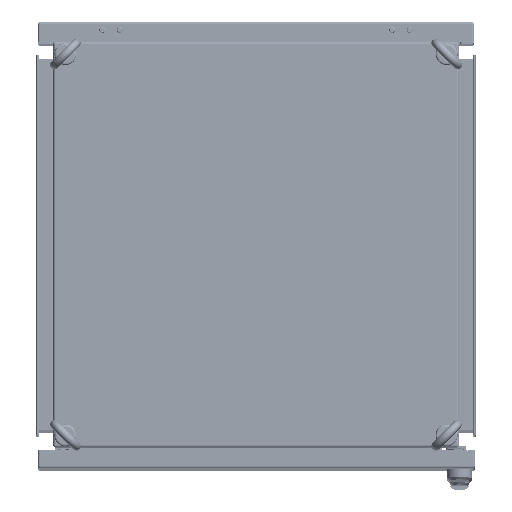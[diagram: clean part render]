
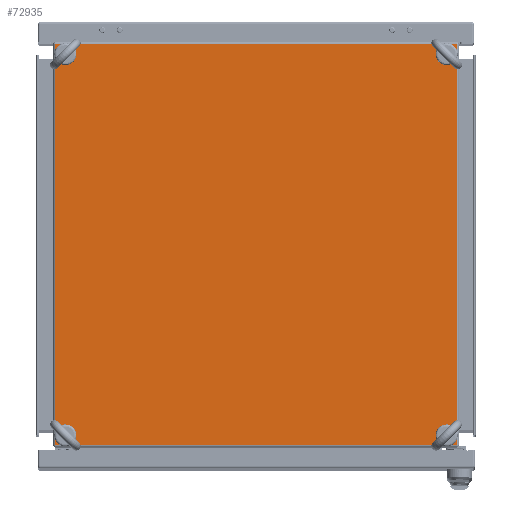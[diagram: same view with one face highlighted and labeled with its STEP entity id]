
A CAD part, top view. The second image highlights one B-rep face of the part: STEP entity #72935.
In plain terms, the highlighted planar face has unit normal (0, 0, 1).
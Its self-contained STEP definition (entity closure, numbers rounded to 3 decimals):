
#7332=LINE('',#116618,#14287);
#7333=LINE('',#116621,#14288);
#7334=LINE('',#116623,#14289);
#7335=LINE('',#116625,#14290);
#14287=VECTOR('',#94105,1000.);
#14288=VECTOR('',#94106,1000.);
#14289=VECTOR('',#94107,1000.);
#14290=VECTOR('',#94108,1000.);
#27044=ORIENTED_EDGE('',*,*,#42508,.F.);
#27045=ORIENTED_EDGE('',*,*,#42509,.F.);
#27046=ORIENTED_EDGE('',*,*,#42510,.F.);
#27047=ORIENTED_EDGE('',*,*,#42511,.F.);
#27048=ORIENTED_EDGE('',*,*,#42512,.T.);
#27049=ORIENTED_EDGE('',*,*,#42513,.F.);
#27050=ORIENTED_EDGE('',*,*,#42514,.T.);
#27051=ORIENTED_EDGE('',*,*,#42515,.T.);
#42508=EDGE_CURVE('',#51161,#51161,#55430,.T.);
#42509=EDGE_CURVE('',#51162,#51162,#55431,.T.);
#42510=EDGE_CURVE('',#51163,#51163,#55432,.T.);
#42511=EDGE_CURVE('',#51164,#51164,#55433,.T.);
#42512=EDGE_CURVE('',#51165,#51166,#7332,.T.);
#42513=EDGE_CURVE('',#51167,#51166,#7333,.F.);
#42514=EDGE_CURVE('',#51167,#51168,#7334,.T.);
#42515=EDGE_CURVE('',#51168,#51165,#7335,.T.);
#51161=VERTEX_POINT('',#116611);
#51162=VERTEX_POINT('',#116613);
#51163=VERTEX_POINT('',#116615);
#51164=VERTEX_POINT('',#116617);
#51165=VERTEX_POINT('',#116619);
#51166=VERTEX_POINT('',#116620);
#51167=VERTEX_POINT('',#116622);
#51168=VERTEX_POINT('',#116624);
#55430=CIRCLE('',#80927,6.5);
#55431=CIRCLE('',#80928,6.5);
#55432=CIRCLE('',#80929,6.5);
#55433=CIRCLE('',#80930,6.5);
#60035=EDGE_LOOP('',(#27044));
#60036=EDGE_LOOP('',(#27045));
#60037=EDGE_LOOP('',(#27046));
#60038=EDGE_LOOP('',(#27047));
#60039=EDGE_LOOP('',(#27048,#27049,#27050,#27051));
#65865=FACE_BOUND('',#60035,.T.);
#65866=FACE_BOUND('',#60036,.T.);
#65867=FACE_BOUND('',#60037,.T.);
#65868=FACE_BOUND('',#60038,.T.);
#65869=FACE_BOUND('',#60039,.T.);
#70073=PLANE('',#80926);
#72935=ADVANCED_FACE('',(#65865,#65866,#65867,#65868,#65869),#70073,.F.);
#80926=AXIS2_PLACEMENT_3D('',#116609,#94095,#94096);
#80927=AXIS2_PLACEMENT_3D('',#116610,#94097,#94098);
#80928=AXIS2_PLACEMENT_3D('',#116612,#94099,#94100);
#80929=AXIS2_PLACEMENT_3D('',#116614,#94101,#94102);
#80930=AXIS2_PLACEMENT_3D('',#116616,#94103,#94104);
#94095=DIRECTION('',(0.,0.,-1.));
#94096=DIRECTION('',(-1.,0.,0.));
#94097=DIRECTION('',(0.,0.,1.));
#94098=DIRECTION('',(1.,0.,0.));
#94099=DIRECTION('',(0.,0.,1.));
#94100=DIRECTION('',(1.,0.,0.));
#94101=DIRECTION('',(0.,0.,1.));
#94102=DIRECTION('',(1.,0.,0.));
#94103=DIRECTION('',(0.,0.,1.));
#94104=DIRECTION('',(1.,0.,0.));
#94105=DIRECTION('',(0.,-1.,0.));
#94106=DIRECTION('',(1.,0.,0.));
#94107=DIRECTION('',(0.,1.,0.));
#94108=DIRECTION('',(-1.,0.,0.));
#116609=CARTESIAN_POINT('',(0.,0.,0.));
#116610=CARTESIAN_POINT('',(260.5,260.5,0.));
#116611=CARTESIAN_POINT('',(267.,260.5,0.));
#116612=CARTESIAN_POINT('',(-260.5,260.5,0.));
#116613=CARTESIAN_POINT('',(-254.,260.5,0.));
#116614=CARTESIAN_POINT('',(260.5,-260.5,0.));
#116615=CARTESIAN_POINT('',(267.,-260.5,0.));
#116616=CARTESIAN_POINT('',(-260.5,-260.5,0.));
#116617=CARTESIAN_POINT('',(-254.,-260.5,0.));
#116618=CARTESIAN_POINT('',(-274.2,274.2,0.));
#116619=CARTESIAN_POINT('',(-274.2,274.2,0.));
#116620=CARTESIAN_POINT('',(-274.2,-274.2,0.));
#116621=CARTESIAN_POINT('',(274.2,-274.2,0.));
#116622=CARTESIAN_POINT('',(274.2,-274.2,0.));
#116623=CARTESIAN_POINT('',(274.2,-274.2,0.));
#116624=CARTESIAN_POINT('',(274.2,274.2,0.));
#116625=CARTESIAN_POINT('',(274.2,274.2,0.));
